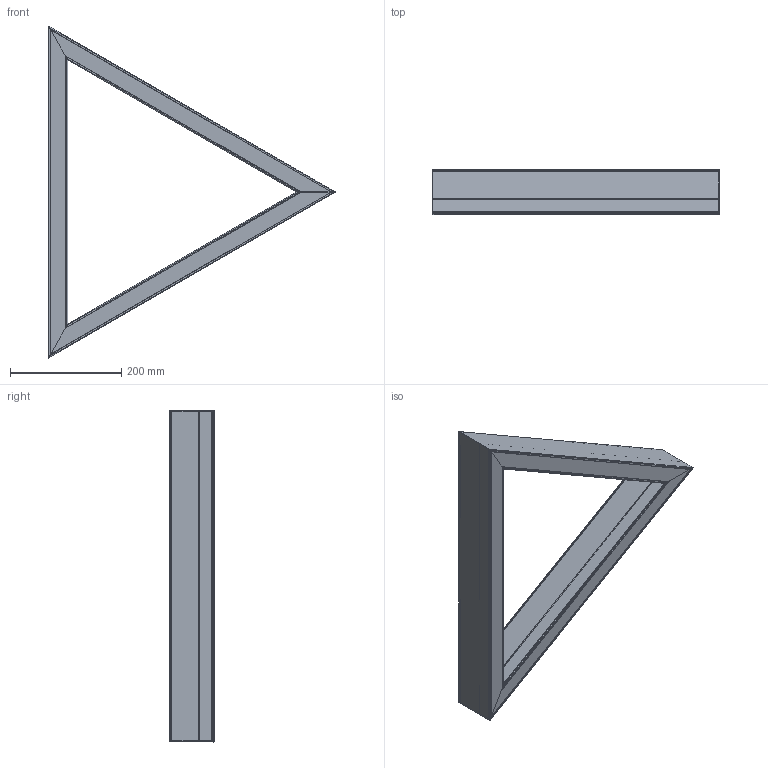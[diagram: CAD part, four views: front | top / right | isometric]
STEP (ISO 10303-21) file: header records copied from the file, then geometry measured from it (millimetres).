
FILE_DESCRIPTION(('STEP AP203'), '1');
FILE_NAME('Ìàòèê Àïèê 30Âò', '', ('UNSPECIFIED'), ('UNSPECIFIED'), 'ASCON STEP Converter 1.6', 'ASCON Math Kernel', '');
FILE_SCHEMA(('CONFIG_CONTROL_DESIGN'));
Length unit declared in the file: millimetre
Products named in the file (4): -01
Assembly tree (3 placements, depth 2):
  (unnamed)
    (unnamed)
    -01
    -01
Bounding box: 517.02 x 80 x 597 mm (x, y, z)
Volume: 645990.8 mm3; surface area: 1013078.2 mm2
Topology: 7 solids, 7 shells, 551 faces, 1603 edges, 1068 vertices
Faces by surface type: cylinder 299, plane 250, torus 2
Full cylindrical faces by diameter (mm): 8 x1, 10 x2, 14 x2
Entity records: 18288 total; most frequent: CARTESIAN_POINT 5019, ORIENTED_EDGE 3192, DIRECTION 2130, EDGE_CURVE 1596, VERTEX_POINT 1068, LINE 996, VECTOR 996, EDGE_LOOP 570
